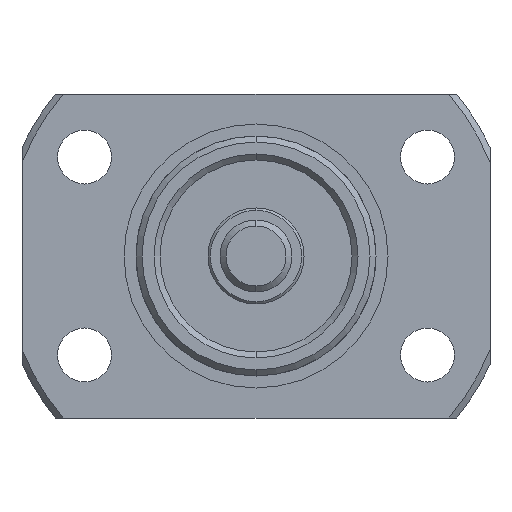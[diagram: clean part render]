
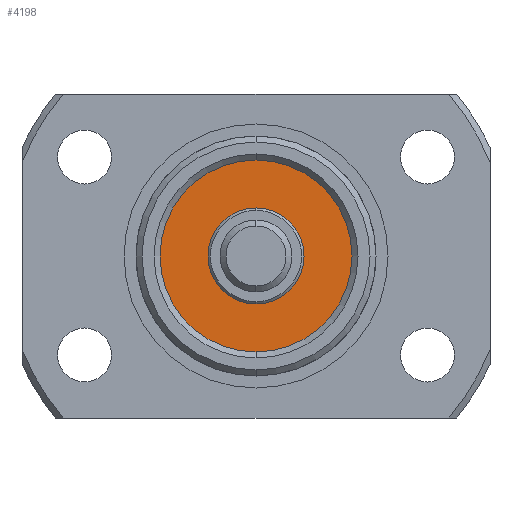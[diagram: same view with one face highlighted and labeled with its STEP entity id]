
A CAD part, left-side view. The second image highlights one B-rep face of the part: STEP entity #4198.
In plain terms, the highlighted planar face has unit normal (-1, 0, 0).
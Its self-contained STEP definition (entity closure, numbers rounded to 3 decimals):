
#730 = CARTESIAN_POINT ( 'NONE',  ( -31.5, 0., -8. ) ) ;
#1000 = DIRECTION ( 'NONE',  ( -1., 0., 0. ) ) ;
#1027 = DIRECTION ( 'NONE',  ( 0., 0., 1. ) ) ;
#1040 = CARTESIAN_POINT ( 'NONE',  ( -31.5, 0., 0. ) ) ;
#1564 = CARTESIAN_POINT ( 'NONE',  ( -31.5, 0., -4. ) ) ;
#1707 = VERTEX_POINT ( 'NONE', #730 ) ;
#2122 = CIRCLE ( 'NONE', #5044, 8. ) ;
#2244 = CIRCLE ( 'NONE', #5729, 4. ) ;
#2312 = CIRCLE ( 'NONE', #5752, 8. ) ;
#2340 = CIRCLE ( 'NONE', #5761, 4. ) ;
#2493 = VERTEX_POINT ( 'NONE', #5393 ) ;
#2891 = FACE_BOUND ( 'NONE', #4503, .T. ) ;
#2895 = FACE_OUTER_BOUND ( 'NONE', #4488, .T. ) ;
#3092 = DIRECTION ( 'NONE',  ( -1., 0., 0. ) ) ;
#3101 = CARTESIAN_POINT ( 'NONE',  ( -31.5, 0., 0. ) ) ;
#3104 = DIRECTION ( 'NONE',  ( 0., 0., 1. ) ) ;
#3203 = VERTEX_POINT ( 'NONE', #5537 ) ;
#3310 = CARTESIAN_POINT ( 'NONE',  ( -31.5, 0., 0. ) ) ;
#3311 = DIRECTION ( 'NONE',  ( -1., 0., 0. ) ) ;
#3312 = DIRECTION ( 'NONE',  ( 0., 0., 1. ) ) ;
#3414 = CARTESIAN_POINT ( 'NONE',  ( -31.5, 0., 0. ) ) ;
#3415 = DIRECTION ( 'NONE',  ( -1., 0., 0. ) ) ;
#3416 = DIRECTION ( 'NONE',  ( 0., 0., 1. ) ) ;
#4198 = ADVANCED_FACE ( 'NONE', ( #2891, #2895 ), #6220, .T. ) ;
#4273 = ORIENTED_EDGE ( 'NONE', *, *, #5978, .T. ) ;
#4306 = ORIENTED_EDGE ( 'NONE', *, *, #5999, .F. ) ;
#4387 = ORIENTED_EDGE ( 'NONE', *, *, #5927, .F. ) ;
#4401 = ORIENTED_EDGE ( 'NONE', *, *, #5652, .T. ) ;
#4488 = EDGE_LOOP ( 'NONE', ( #4273, #4401 ) ) ;
#4503 = EDGE_LOOP ( 'NONE', ( #4306, #4387 ) ) ;
#4940 = AXIS2_PLACEMENT_3D ( 'NONE', #6159, #6185, #6196 ) ;
#5044 = AXIS2_PLACEMENT_3D ( 'NONE', #3101, #3092, #3104 ) ;
#5393 = CARTESIAN_POINT ( 'NONE',  ( -31.5, 0., 8. ) ) ;
#5537 = CARTESIAN_POINT ( 'NONE',  ( -31.5, 0., 4. ) ) ;
#5652 = EDGE_CURVE ( 'NONE', #2493, #1707, #2122, .T. ) ;
#5686 = VERTEX_POINT ( 'NONE', #1564 ) ;
#5729 = AXIS2_PLACEMENT_3D ( 'NONE', #1040, #1000, #1027 ) ;
#5752 = AXIS2_PLACEMENT_3D ( 'NONE', #3310, #3311, #3312 ) ;
#5761 = AXIS2_PLACEMENT_3D ( 'NONE', #3414, #3415, #3416 ) ;
#5927 = EDGE_CURVE ( 'NONE', #3203, #5686, #2244, .T. ) ;
#5978 = EDGE_CURVE ( 'NONE', #1707, #2493, #2312, .T. ) ;
#5999 = EDGE_CURVE ( 'NONE', #5686, #3203, #2340, .T. ) ;
#6159 = CARTESIAN_POINT ( 'NONE',  ( -31.5, 0., 0. ) ) ;
#6185 = DIRECTION ( 'NONE',  ( -1., 0., 0. ) ) ;
#6196 = DIRECTION ( 'NONE',  ( 0., 0., 1. ) ) ;
#6220 = PLANE ( 'NONE',  #4940 ) ;
